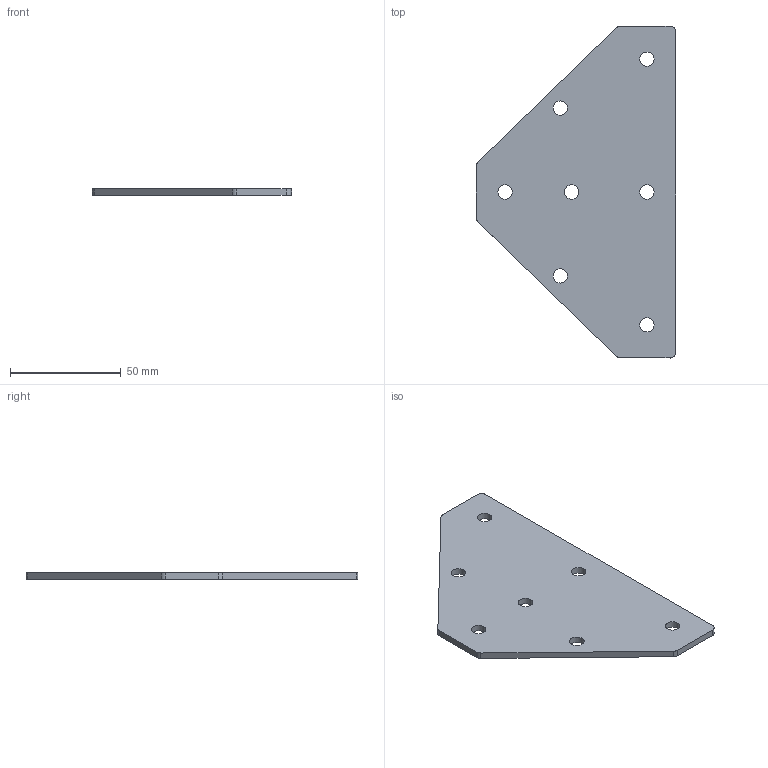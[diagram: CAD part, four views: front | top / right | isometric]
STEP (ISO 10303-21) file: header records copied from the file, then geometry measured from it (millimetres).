
FILE_DESCRIPTION(('STEP AP203'), '1');
FILE_NAME('À00804.33030 _ Ò-ñîåäèíèòåëü', '', ('UNSPECIFIED'), ('UNSPECIFIED'), 'C3D Converter', 'C3D Toolkit', '');
FILE_SCHEMA(('CONFIG_CONTROL_DESIGN'));
Length unit declared in the file: millimetre
Products named in the file (1): А00804.33030
Bounding box: 90 x 150 x 3 mm (x, y, z)
Volume: 27889.5 mm3; surface area: 20232.7 mm2
Topology: 1 solids, 1 shells, 21 faces, 57 edges, 38 vertices
Faces by surface type: cylinder 13, plane 8
Full cylindrical faces by diameter (mm): 6.5 x7
Entity records: 873 total; most frequent: DIRECTION 120, CARTESIAN_POINT 110, ORIENTED_EDGE 100, EDGE_CURVE 50, AXIS2_PLACEMENT_3D 48, EDGE_LOOP 42, VERTEX_POINT 38, FACE_BOUND 28
